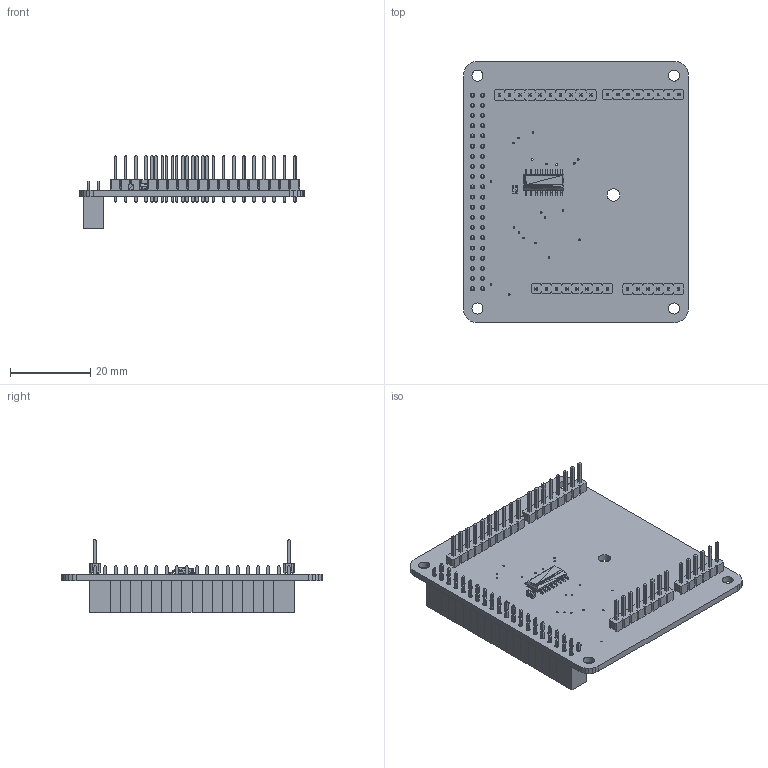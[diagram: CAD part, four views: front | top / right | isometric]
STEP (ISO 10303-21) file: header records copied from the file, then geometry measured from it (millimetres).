
FILE_DESCRIPTION(('for SolidWorks'),'2;1');
FILE_NAME('C:\Users\andrew\Desktop\Arduino Shield.step', '2018-11-05T14:07:26',('andrew'),(''), 'Open CASCADE STEP processor 6.6','DipTrace','Unknown');
FILE_SCHEMA(('AUTOMOTIVE_DESIGN { 1 0 10303 214 1 1 1 1 }'));
Length unit declared in the file: millimetre
Products named in the file (8): PCB_Arduino_Shield; Board_Arduino_Shield; hdrf-2x20t_2.54x2.54_51x5; 2.54_header_6_way; 2.54_header_8_way; 2.54_header_10_way; cap_0805; soic-16_150mil
Assembly tree (8 placements, depth 2):
  PCB_Arduino_Shield
    Board_Arduino_Shield
    hdrf-2x20t_2.54x2.54_51x5
    2.54_header_6_way
    2.54_header_8_way  x2
    2.54_header_10_way
    cap_0805
    soic-16_150mil
Bounding box: 56.04 x 65.09 x 18.07 mm (x, y, z)
Volume: 5639.9 mm3; surface area: 15303.8 mm2
Topology: 2 solids, 153 shells, 3541 faces, 7663 edges, 4468 vertices
Faces by surface type: plane 2527, extrusion 628, bspline 284, cylinder 102
Full cylindrical faces by diameter (mm): 0.406 x25, 1 x72, 2.75 x4, 3.1 x1
Entity records: 109012 total; most frequent: CARTESIAN_POINT 16089, ORIENTED_EDGE 14194, DIRECTION 12671, EDGE_CURVE 7097, VECTOR 6987, LINE 6587, VERTEX_POINT 4112, FACE_BOUND 3605
